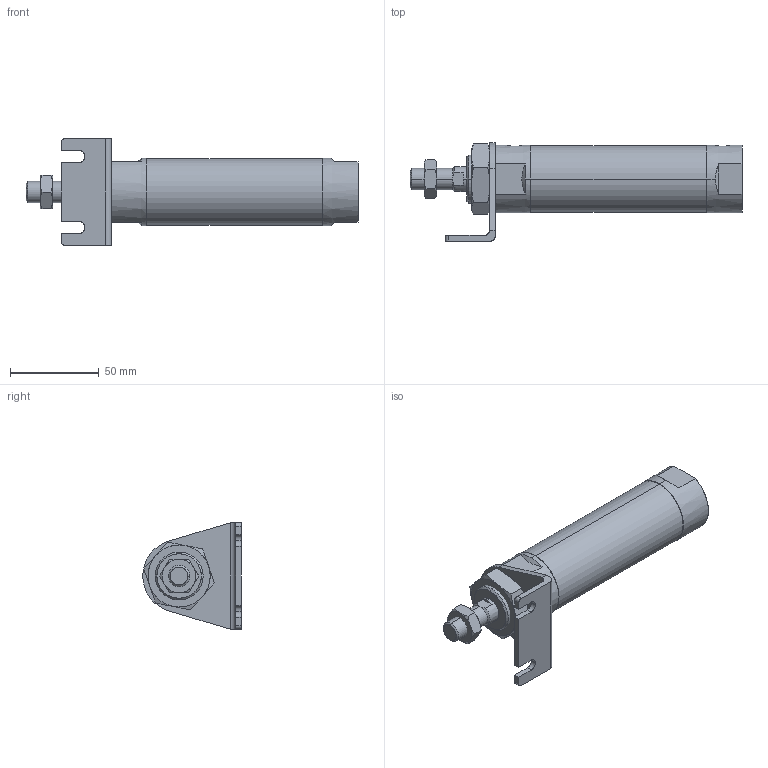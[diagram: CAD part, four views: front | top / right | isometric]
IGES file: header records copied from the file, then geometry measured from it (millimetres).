
Start section: SolidWorks IGES file using analytic representation for surfaces
Global section: file name: C:\Users\Toshiba\Desktop\JGND2-32-50-L.IGS; native system: SolidWorks 2014; preprocessor: SolidWorks 2014; author: Toshiba; date: 160804.104818; units: millimetre
Bounding box: 187 x 55.5 x 60 mm (x, y, z)
Surface area: 34216.3 mm2 (no closed solid volume)
Topology: 0 solids, 0 shells, 116 faces, 1918 edges, 1914 vertices
Faces by surface type: bspline 71, revolution 45
